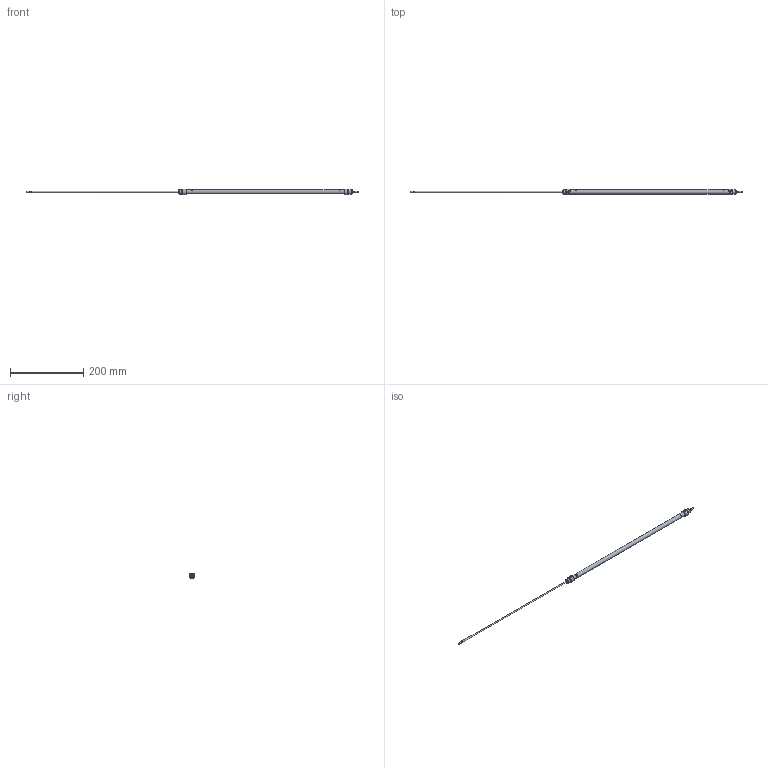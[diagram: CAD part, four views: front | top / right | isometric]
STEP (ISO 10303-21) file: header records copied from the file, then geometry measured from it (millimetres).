
FILE_DESCRIPTION( ( 'STEP AP203' ), '1' );
FILE_NAME( '//expscmdclustefs.cadenas.external/client_exchange/iodir/jobs/output/wkb68274803_no0/STEP/M101-010-0400-M__0__2_03.stp', ' ', ( ' ' ), ( ' ' ), 'PSStep 15.0.47', 'PARTsolutions', ' ' );
FILE_SCHEMA( ( 'CONFIG_CONTROL_DESIGN' ) );
Length unit declared in the file: millimetre
Products named in the file (3): M101-010-0400-M [0]; HI_M101-010-0400-M-[0]-z; HI_M101-010-0400-M-[0]-k
Assembly tree (2 placements, depth 2):
  M101-010-0400-M [0]
    HI_M101-010-0400-M-[0]-z
    HI_M101-010-0400-M-[0]-k
Bounding box: 906 x 15.77 x 14.87 mm (x, y, z)
Volume: 28362 mm3; surface area: 43098.2 mm2
Topology: 2 solids, 2 shells, 71 faces, 145 edges, 88 vertices
Faces by surface type: plane 32, cylinder 23, cone 14, torus 2
Full cylindrical faces by diameter (mm): 3.141 x2, 4 x6, 4.134 x2, 10 x2, 10.466 x4, 11.3 x1, 12 x4
Entity records: 1838 total; most frequent: CARTESIAN_POINT 358, DIRECTION 312, ORIENTED_EDGE 212, AXIS2_PLACEMENT_3D 140, EDGE_LOOP 120, EDGE_CURVE 106, FACE_OUTER_BOUND 94, VERTEX_POINT 82
